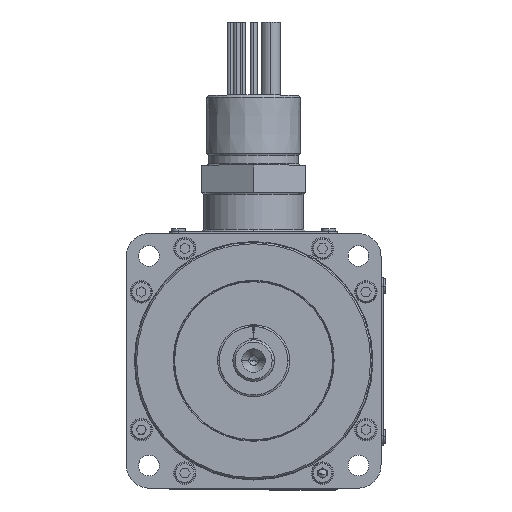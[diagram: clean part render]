
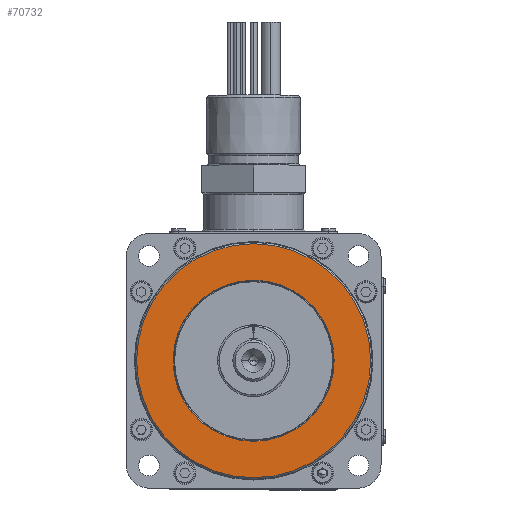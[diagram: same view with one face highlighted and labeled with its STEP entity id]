
A CAD part, top view. The second image highlights one B-rep face of the part: STEP entity #70732.
In plain terms, the highlighted planar face has unit normal (0, 0, 1).
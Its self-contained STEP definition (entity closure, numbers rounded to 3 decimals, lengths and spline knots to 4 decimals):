
#790 = VERTEX_POINT ( 'NONE', #43711 ) ;
#792 = VERTEX_POINT ( 'NONE', #43714 ) ;
#7996 = EDGE_CURVE ( 'NONE', #792, #790, #31686, .T. ) ;
#8150 = EDGE_CURVE ( 'NONE', #16253, #15996, #30131, .T. ) ;
#8170 = EDGE_CURVE ( 'NONE', #790, #792, #30108, .T. ) ;
#8682 = CARTESIAN_POINT ( 'NONE',  ( 0., 0., -1.2339 ) ) ;
#8683 = DIRECTION ( 'NONE',  ( 0., 0., -1. ) ) ;
#8684 = DIRECTION ( 'NONE',  ( -1., 0., 0. ) ) ;
#8739 = CARTESIAN_POINT ( 'NONE',  ( 0., 0., -1.2339 ) ) ;
#8747 = DIRECTION ( 'NONE',  ( 0., 0., -1. ) ) ;
#8748 = DIRECTION ( 'NONE',  ( -1., 0., 0. ) ) ;
#9089 = DIRECTION ( 'NONE',  ( -1., 0., 0. ) ) ;
#9094 = CARTESIAN_POINT ( 'NONE',  ( 0., 0., -1.2339 ) ) ;
#9098 = DIRECTION ( 'NONE',  ( 0., 0., -1. ) ) ;
#13291 = ORIENTED_EDGE ( 'NONE', *, *, #7996, .T. ) ;
#13322 = ORIENTED_EDGE ( 'NONE', *, *, #8170, .T. ) ;
#13441 = ORIENTED_EDGE ( 'NONE', *, *, #62783, .F. ) ;
#13478 = ORIENTED_EDGE ( 'NONE', *, *, #8150, .F. ) ;
#15996 = VERTEX_POINT ( 'NONE', #48407 ) ;
#16253 = VERTEX_POINT ( 'NONE', #81520 ) ;
#30108 = CIRCLE ( 'NONE', #72812, 1.07 ) ;
#30131 = CIRCLE ( 'NONE', #72802, 1.5548 ) ;
#31686 = CIRCLE ( 'NONE', #72752, 1.07 ) ;
#43711 = CARTESIAN_POINT ( 'NONE',  ( 1.07, 0., -1.2339 ) ) ;
#43714 = CARTESIAN_POINT ( 'NONE',  ( -1.07, 0., -1.2339 ) ) ;
#47368 = CARTESIAN_POINT ( 'NONE',  ( 0., 1.5548, -1.2339 ) ) ;
#47369 = PLANE ( 'NONE',  #56095 ) ;
#47371 = DIRECTION ( 'NONE',  ( 0., 0., 1. ) ) ;
#47372 = DIRECTION ( 'NONE',  ( 1., 0., 0. ) ) ;
#48407 = CARTESIAN_POINT ( 'NONE',  ( 1.5548, 0., -1.2339 ) ) ;
#55419 = CIRCLE ( 'NONE', #55640, 1.5548 ) ;
#55640 = AXIS2_PLACEMENT_3D ( 'NONE', #74016, #74027, #74028 ) ;
#56095 = AXIS2_PLACEMENT_3D ( 'NONE', #47368, #47371, #47372 ) ;
#62783 = EDGE_CURVE ( 'NONE', #15996, #16253, #55419, .T. ) ;
#68840 = EDGE_LOOP ( 'NONE', ( #13478, #13441 ) ) ;
#69166 = EDGE_LOOP ( 'NONE', ( #13322, #13291 ) ) ;
#70732 = ADVANCED_FACE ( 'NONE', ( #79385, #79402 ), #47369, .T. ) ;
#72752 = AXIS2_PLACEMENT_3D ( 'NONE', #8682, #8683, #8684 ) ;
#72802 = AXIS2_PLACEMENT_3D ( 'NONE', #8739, #8747, #8748 ) ;
#72812 = AXIS2_PLACEMENT_3D ( 'NONE', #9094, #9098, #9089 ) ;
#74016 = CARTESIAN_POINT ( 'NONE',  ( 0., 0., -1.2339 ) ) ;
#74027 = DIRECTION ( 'NONE',  ( 0., 0., -1. ) ) ;
#74028 = DIRECTION ( 'NONE',  ( -1., 0., 0. ) ) ;
#79385 = FACE_BOUND ( 'NONE', #69166, .T. ) ;
#79402 = FACE_OUTER_BOUND ( 'NONE', #68840, .T. ) ;
#81520 = CARTESIAN_POINT ( 'NONE',  ( -1.5548, 0., -1.2339 ) ) ;
